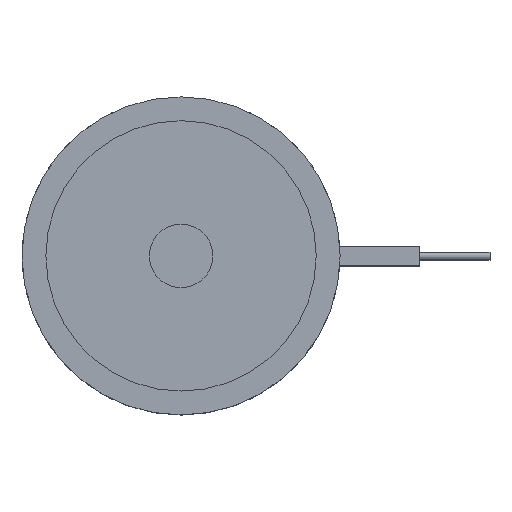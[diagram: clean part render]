
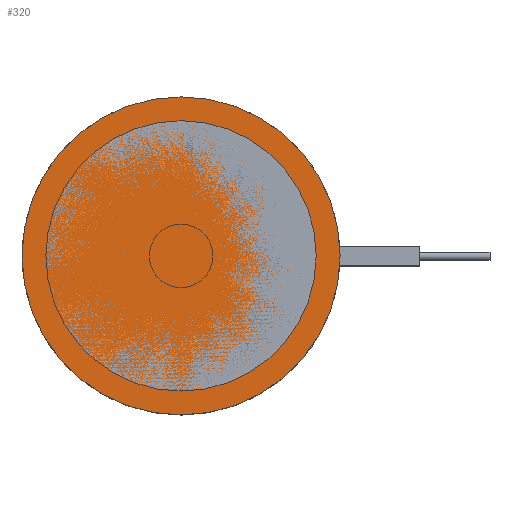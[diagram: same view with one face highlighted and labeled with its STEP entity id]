
A CAD part, top view. The second image highlights one B-rep face of the part: STEP entity #320.
In plain terms, the highlighted planar face has unit normal (0, 0, 1).
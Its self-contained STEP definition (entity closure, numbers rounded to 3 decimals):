
#320=ADVANCED_FACE('',(#422),#386,.F.);
#386=PLANE('',#1111);
#422=FACE_OUTER_BOUND('',#499,.T.);
#499=EDGE_LOOP('',(#633));
#633=ORIENTED_EDGE('',*,*,#921,.F.);
#828=VERTEX_POINT('',#1606);
#921=EDGE_CURVE('',#828,#828,#1021,.T.);
#1021=CIRCLE('',#1110,20.);
#1110=AXIS2_PLACEMENT_3D('',#1605,#1304,#1305);
#1111=AXIS2_PLACEMENT_3D('',#1607,#1306,#1307);
#1304=DIRECTION('',(0.,0.,-1.));
#1305=DIRECTION('',(-1.,0.,0.));
#1306=DIRECTION('',(0.,0.,-1.));
#1307=DIRECTION('',(-1.,0.,0.));
#1605=CARTESIAN_POINT('',(0.,0.,0.));
#1606=CARTESIAN_POINT('',(-20.,0.,0.));
#1607=CARTESIAN_POINT('',(0.,0.,0.));
